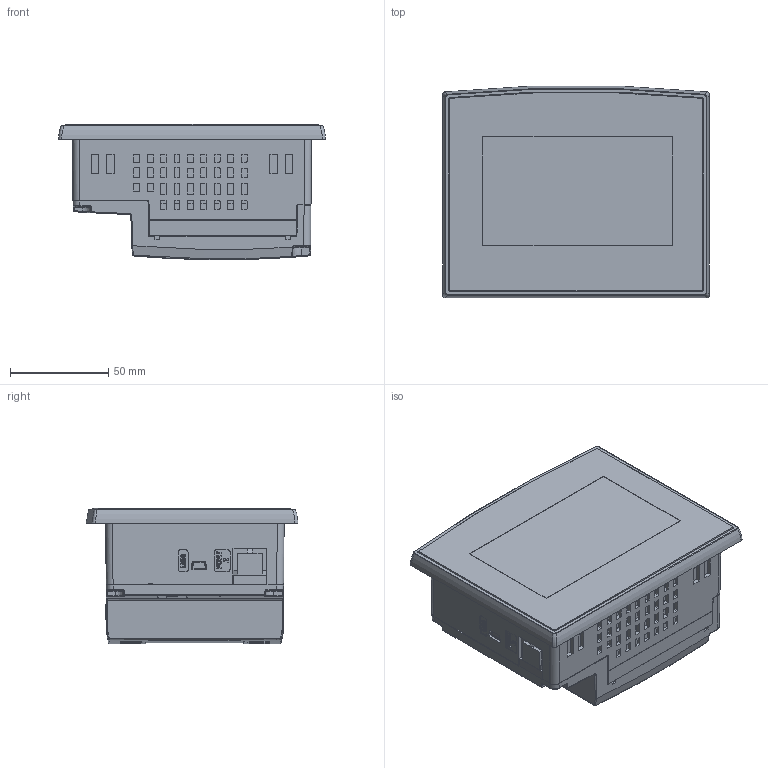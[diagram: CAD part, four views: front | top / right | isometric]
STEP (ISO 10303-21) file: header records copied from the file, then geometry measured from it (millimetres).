
FILE_DESCRIPTION (( 'STEP AP214' ), '1' );
FILE_NAME ('SM43.STEP', '2024-04-18T10:26:56', ( '' ), ( '' ), 'SwSTEP 2.0', 'SolidWorks 2022', '' );
FILE_SCHEMA (( 'AUTOMOTIVE_DESIGN' ));
Length unit declared in the file: millimetre
Products named in the file (1): SM43
Bounding box: 136 x 108.02 x 68.99 mm (x, y, z)
Volume: 695725.3 mm3; surface area: 72266.2 mm2
Topology: 1 solids, 9 shells, 1749 faces, 4667 edges, 3057 vertices
Faces by surface type: plane 985, cylinder 423, bspline 194, cone 126, sphere 12, torus 9
Entity records: 61496 total; most frequent: CARTESIAN_POINT 21508, ORIENTED_EDGE 9322, DIRECTION 6839, EDGE_CURVE 4661, VERTEX_POINT 3057, LINE 2923, VECTOR 2923, AXIS2_PLACEMENT_3D 1958
